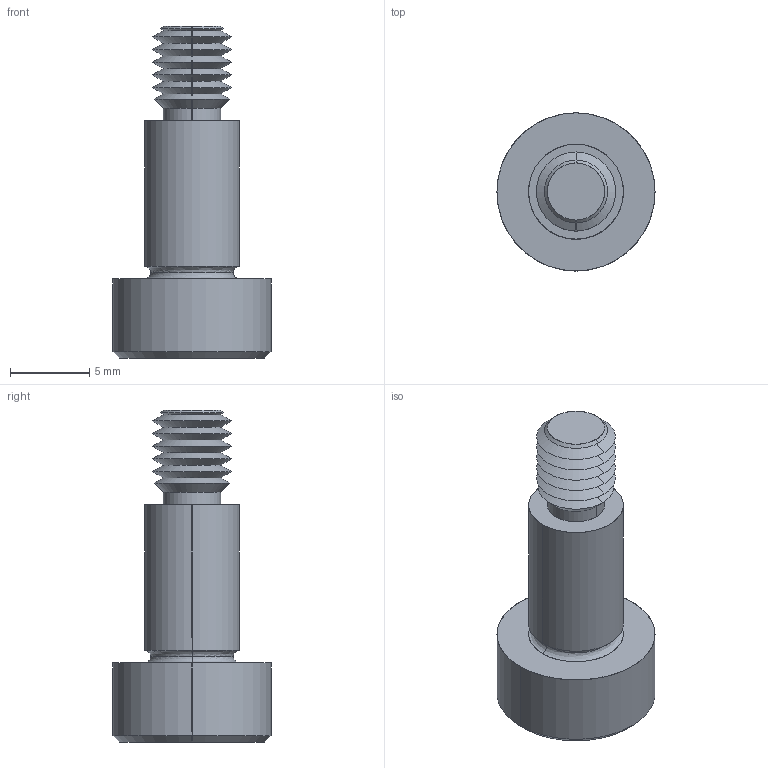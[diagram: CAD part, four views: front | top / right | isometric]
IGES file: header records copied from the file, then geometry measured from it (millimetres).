
Start section: SolidWorks IGES file using analytic representation for surfaces
Global section: file name: C:\Users\IanO\Documents\Temp Folder\GENERAL\SCREW REVISION\P0130_v2\P0130.T5_v2_20220106_IGES\P0130.060-010-T5.igs; native system: SolidWorks 2019; preprocessor: SolidWorks 2019; author: IanO; date: 220106.222233; units: millimetre
Bounding box: 10 x 10 x 21 mm (x, y, z)
Surface area: 676.1 mm2 (no closed solid volume)
Topology: 0 solids, 0 shells, 64 faces, 504 edges, 502 vertices
Faces by surface type: revolution 44, bspline 20
